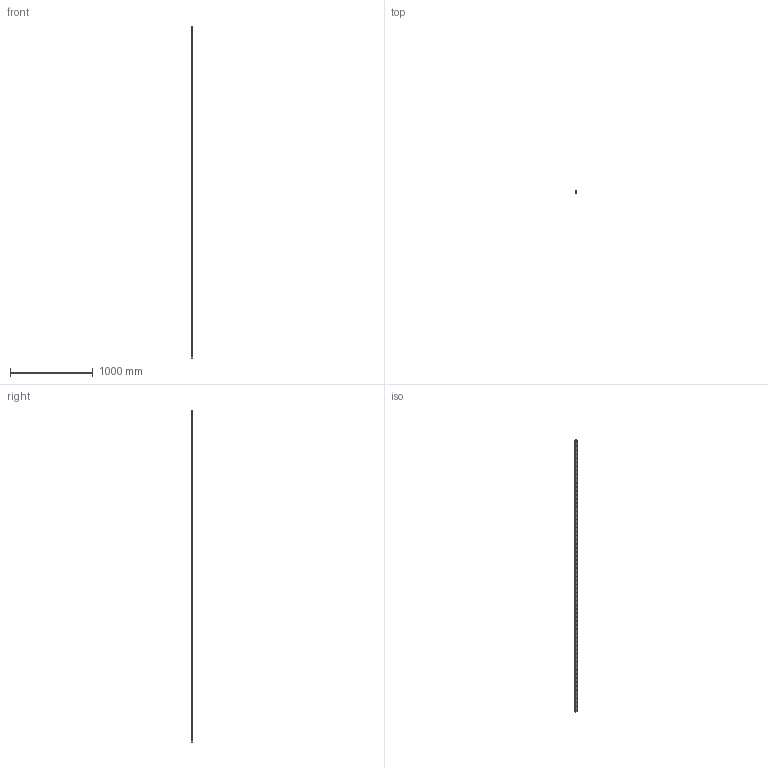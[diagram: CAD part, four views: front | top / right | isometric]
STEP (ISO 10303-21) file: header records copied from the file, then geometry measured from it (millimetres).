
FILE_DESCRIPTION (( 'STEP AP203' ), '1' );
FILE_NAME ('TR25-4000.STEP', '2019-05-29T10:33:56', ( '' ), ( '' ), 'SwSTEP 2.0', 'SolidWorks 2016', '' );
FILE_SCHEMA (( 'CONFIG_CONTROL_DESIGN' ));
Length unit declared in the file: millimetre
Products named in the file (1): TR25-4000
Bounding box: 23 x 22 x 4000 mm (x, y, z)
Volume: 1780809 mm3; surface area: 386963.5 mm2
Topology: 1 solids, 1 shells, 495 faces, 1176 edges, 683 vertices
Faces by surface type: cylinder 274, cone 134, plane 87
Entity records: 13553 total; most frequent: DIRECTION 2614, CARTESIAN_POINT 2221, ORIENTED_EDGE 2084, AXIS2_PLACEMENT_3D 1076, EDGE_CURVE 1042, VERTEX_POINT 683, EDGE_LOOP 629, CIRCLE 580
